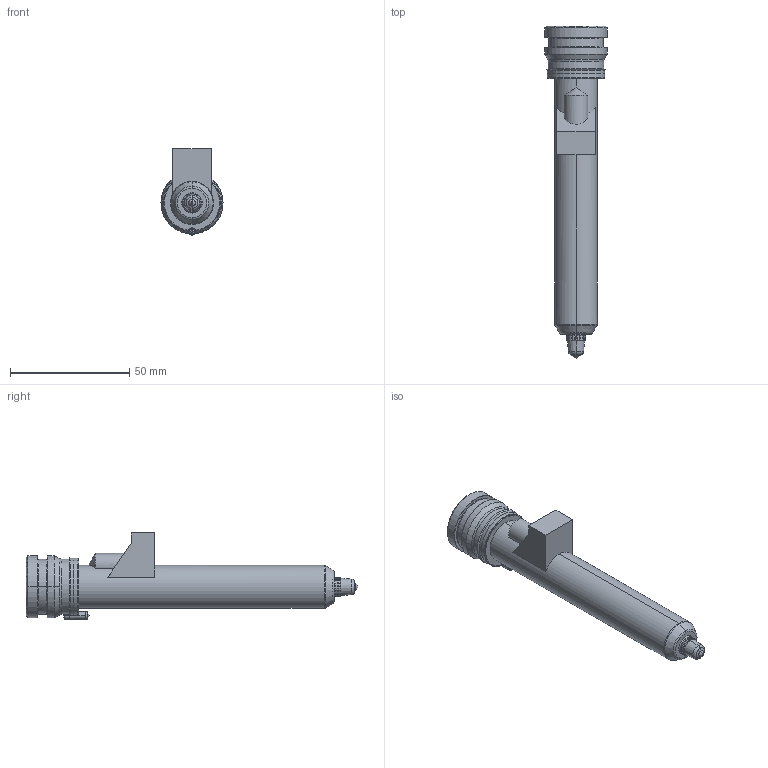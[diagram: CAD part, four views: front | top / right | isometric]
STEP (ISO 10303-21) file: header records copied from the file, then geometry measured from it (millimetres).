
FILE_DESCRIPTION((''),'2;1');
FILE_NAME('TH18121-M-1B50-PK-JG','2023-12-14T',('umhib'),('Thermoplay S.p.A.'),'PRO/ENGINEER BY PARAMETRIC TECHNOLOGY CORPORATION, 2017170','PRO/ENGINEER BY PARAMETRIC TECHNOLOGY CORPORATION, 2017170','');
FILE_SCHEMA(('CONFIG_CONTROL_DESIGN'));
Length unit declared in the file: millimetre
Products named in the file (1): TH18121-M-1B50-PK-JG
Bounding box: 26 x 139 x 36.1 mm (x, y, z)
Volume: 27939 mm3; surface area: 21408.4 mm2
Topology: 1 solids, 2 shells, 389 faces, 993 edges, 609 vertices
Faces by surface type: cylinder 149, plane 87, cone 62, torus 56, bspline 22, sphere 11, extrusion 2
Entity records: 16885 total; most frequent: CARTESIAN_POINT 5242, DIRECTION 1992, ORIENTED_EDGE 1960, EDGE_CURVE 982, AXIS2_PLACEMENT_3D 802, VERTEX_POINT 609, CIRCLE 436, EDGE_LOOP 412
